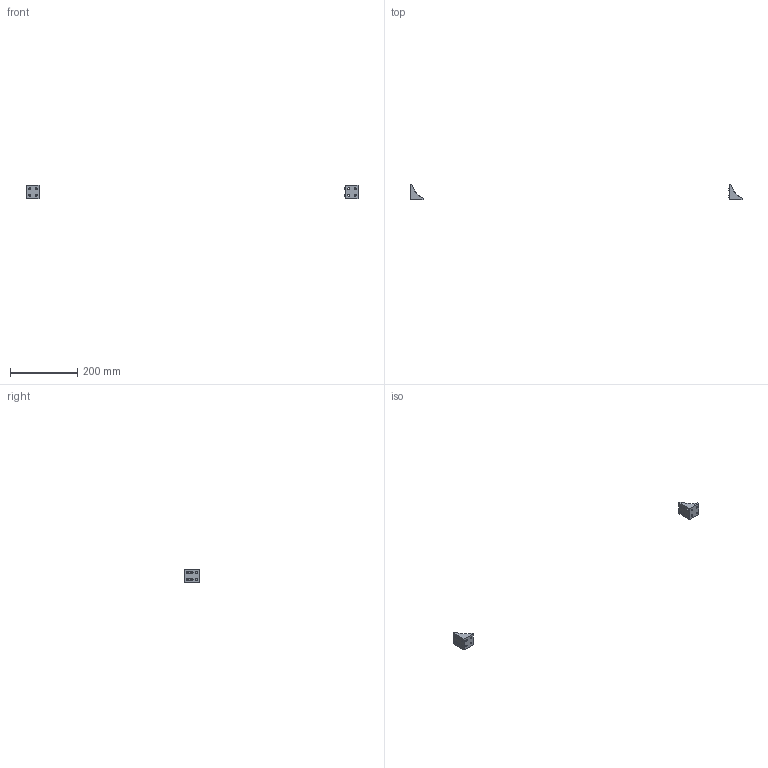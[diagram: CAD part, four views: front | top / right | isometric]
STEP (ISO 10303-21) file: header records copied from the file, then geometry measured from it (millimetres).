
FILE_DESCRIPTION(/* description */ (''),/* implementation_level */ '2;1');
FILE_NAME(/* name */ '10.optics-laser#10.4#HBLFSDW5',/* time_stamp */ '2014-12-01T20:19:18+01:00',/* author */ (''),/* organization */ (''),/* preprocessor_version */ 'ST-DEVELOPER v14',/* originating_system */ '',/* authorisation */ '');
FILE_SCHEMA (('AUTOMOTIVE_DESIGN'));
Length unit declared in the file: millimetre
Products named in the file (2): Document; angle bracket, heavy, double
Assembly tree (2 placements, depth 2):
  Document
    angle bracket, heavy, double  x2
Bounding box: 988.8 x 45 x 40 mm (x, y, z)
Volume: 36547.3 mm3; surface area: 20411.7 mm2
Topology: 2 solids, 2 shells, 102 faces, 258 edges, 172 vertices
Faces by surface type: plane 68, bspline 34
Entity records: 7574 total; most frequent: CARTESIAN_POINT 5753, B_SPLINE_CURVE_WITH_KNOTS 339, ORIENTED_EDGE 258, PCURVE 258, DEFINITIONAL_REPRESENTATION 258, SURFACE_CURVE 129, EDGE_CURVE 129, VERTEX_POINT 86
